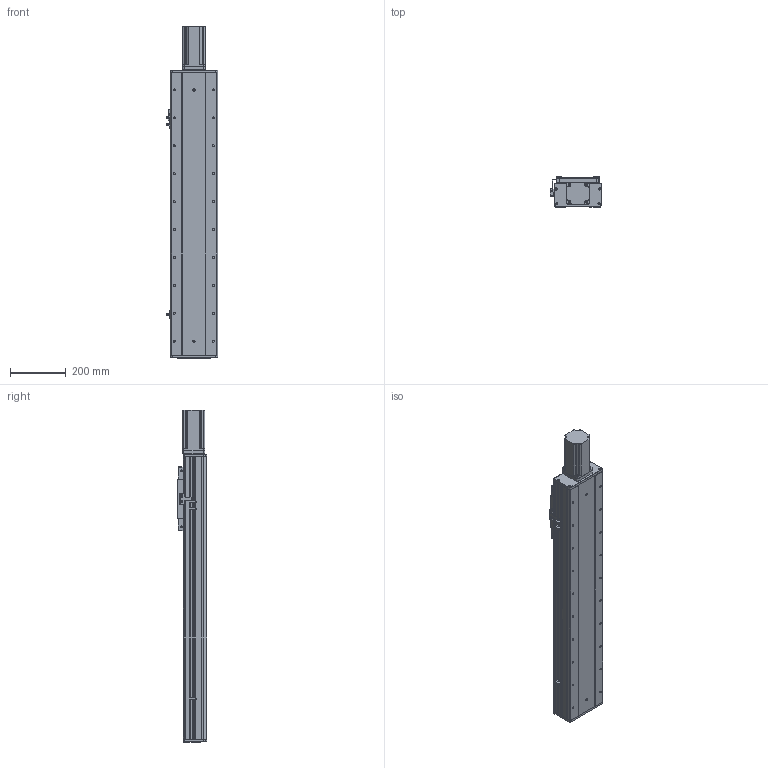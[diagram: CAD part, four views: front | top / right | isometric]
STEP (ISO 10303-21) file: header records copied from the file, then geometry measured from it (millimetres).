
FILE_DESCRIPTION (( 'STEP AP203' ), '1' );
FILE_NAME ('RY170F-L2020-300-MK.SLDASM_700.step', '2021-03-02T06:31:31', ( '盈信电脑' ), ( '东莞市道滘镇水果街19号' ), 'SwSTEP 2.0', 'SolidWorks 2012', '' );
FILE_SCHEMA (( 'CONFIG_CONTROL_DESIGN' ));
Products named in the file (22): 覜茼ん674; RY170F-L2020-300-MK.SLDASM_700; 滅袉蝶18-24; 怢湛750W萇儂ㄗ80遺ㄘ; 侐源滅袉蝶; 750W萇儂梓袧蛌諉啣; RY170F-詩湍揤踡輸; RY170F俋离覜茼え; RY170F-揤踡謫假蚾粣; 覜茼ん672; RY170F-后盖板(铝件）; 滅袉蝶18-10; RY100F-詩湍揤踡謫; RY170F-丝杆铝滑块连接板; 侂狟400W侜督萇儂; RY170F-直连前盖板(铝件）; 15; RY170F-300眻蟀倰第奻裔啣-MK_700; RY170F-滅鳥奻裔; RY170F-300眻蟀祥凄詩湍-MK_700; RY170F-佪裝臏賑輸20蹟譫; RY170F-300眻蟀倰第菁釱-MK_700
Assembly tree (26 placements, depth 3):
  RY170F-L2020-300-MK.SLDASM_700
    RY170F-300眻蟀倰第菁釱-MK_700
    RY170F-300眻蟀祥凄詩湍-MK_700
    RY170F-300眻蟀倰第奻裔啣-MK_700  x2
    RY170F-滅鳥奻裔
    RY170F-佪裝臏賑輸20蹟譫
    RY170F-丝杆铝滑块连接板
    侂狟400W侜督萇儂
      15
    RY170F-直连前盖板(铝件）
    滅袉蝶18-10
    RY100F-詩湍揤踡謫
    RY170F-后盖板(铝件）
    覜茼ん672  x3
    RY170F俋离覜茼え
    RY170F-揤踡謫假蚾粣
    RY170F-詩湍揤踡輸  x2
    滅袉蝶18-24
    750W萇儂梓袧蛌諉啣
    怢湛750W萇儂ㄗ80遺ㄘ
    侐源滅袉蝶  x2
    覜茼ん674
Bounding box: 183.7 x 107 x 1189 mm (x, y, z)
Volume: 6483235.2 mm3; surface area: 1984299.7 mm2
Topology: 25 solids, 25 shells, 2260 faces, 6223 edges, 3980 vertices
Faces by surface type: cylinder 1005, plane 1001, cone 236, bspline 18
Entity records: 66227 total; most frequent: CARTESIAN_POINT 13051, DIRECTION 10881, ORIENTED_EDGE 10390, EDGE_CURVE 5195, AXIS2_PLACEMENT_3D 3876, VERTEX_POINT 3400, LINE 3129, VECTOR 3129
